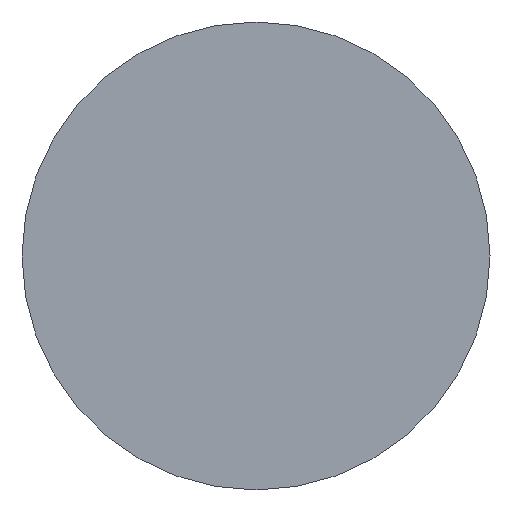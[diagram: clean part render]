
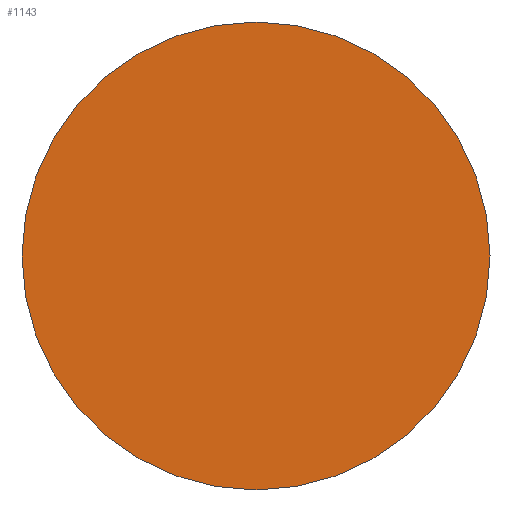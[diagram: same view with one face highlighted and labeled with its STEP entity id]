
A CAD part, left-side view. The second image highlights one B-rep face of the part: STEP entity #1143.
In plain terms, the highlighted planar face has unit normal (-1, 0, 0).
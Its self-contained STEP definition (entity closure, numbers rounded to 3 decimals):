
#1104=CARTESIAN_POINT('',(-417.971,-481.526,-23.525));
#1105=VERTEX_POINT('',#1104);
#1112=CARTESIAN_POINT('',(-417.971,-481.526,-88.525));
#1113=VERTEX_POINT('',#1112);
#1114=CARTESIAN_POINT('',(-417.971,-481.526,-56.025));
#1115=DIRECTION('',(-1.0,0.0,0.0));
#1116=DIRECTION('',(0.0,-1.0,0.0));
#1117=AXIS2_PLACEMENT_3D('',#1114,#1115,#1116);
#1118=CIRCLE('',#1117,32.5);
#1119=EDGE_CURVE('',#1113,#1105,#1118,.T.);
#1121=CARTESIAN_POINT('',(-417.971,-481.526,-56.025));
#1122=DIRECTION('',(-1.0,0.0,0.0));
#1123=DIRECTION('',(0.0,-1.0,0.0));
#1124=AXIS2_PLACEMENT_3D('',#1121,#1122,#1123);
#1125=CIRCLE('',#1124,32.5);
#1126=EDGE_CURVE('',#1105,#1113,#1125,.T.);
#1134=CARTESIAN_POINT('',(-417.971,-442.526,-95.025));
#1135=DIRECTION('',(-1.0,0.0,0.0));
#1136=DIRECTION('',(0.0,-1.0,0.0));
#1137=AXIS2_PLACEMENT_3D('',#1134,#1135,#1136);
#1138=PLANE('',#1137);
#1139=ORIENTED_EDGE('',*,*,#1126,.T.);
#1140=ORIENTED_EDGE('',*,*,#1119,.T.);
#1141=EDGE_LOOP('',(#1139,#1140));
#1142=FACE_OUTER_BOUND('',#1141,.T.);
#1143=ADVANCED_FACE('',(#1142),#1138,.T.);
